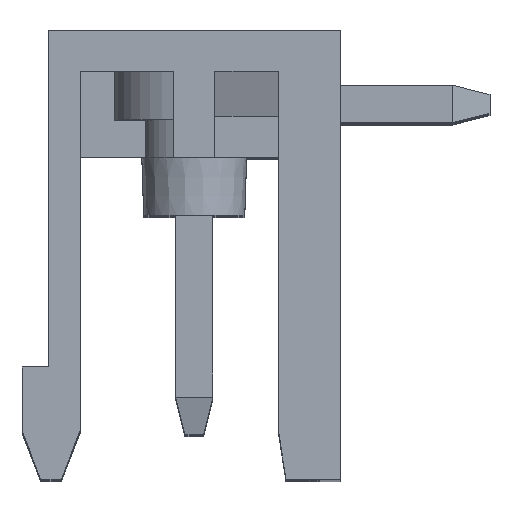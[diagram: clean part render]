
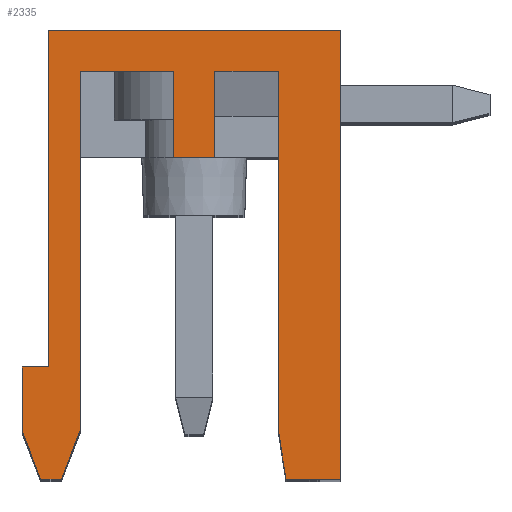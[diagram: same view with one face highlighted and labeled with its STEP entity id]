
A CAD part, top view. The second image highlights one B-rep face of the part: STEP entity #2335.
In plain terms, the highlighted planar face has unit normal (0, 0, 1).
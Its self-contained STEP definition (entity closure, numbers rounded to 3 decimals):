
#90 = CARTESIAN_POINT ( 'NONE',  ( -3.9, 3., 40.64 ) ) ;
#117 = CARTESIAN_POINT ( 'NONE',  ( -4.6, 3., 40.64 ) ) ;
#369 = CARTESIAN_POINT ( 'NONE',  ( 0.55, 8.6, 40.64 ) ) ;
#511 = DIRECTION ( 'NONE',  ( 1., 0., 0. ) ) ;
#717 = DIRECTION ( 'NONE',  ( 0., 0., 1. ) ) ;
#748 = CARTESIAN_POINT ( 'NONE',  ( -0.55, 10.9, 40.64 ) ) ;
#944 = VECTOR ( 'NONE', #13613, 1000. ) ;
#1060 = VECTOR ( 'NONE', #13209, 1000. ) ;
#1061 = DIRECTION ( 'NONE',  ( 0., -1., 0. ) ) ;
#1148 = CARTESIAN_POINT ( 'NONE',  ( 3.9, 12., 40.64 ) ) ;
#1170 = EDGE_CURVE ( 'NONE', #3306, #5847, #16572, .T. ) ;
#1202 = EDGE_CURVE ( 'NONE', #19290, #5343, #10304, .T. ) ;
#1231 = LINE ( 'NONE', #18402, #3653 ) ;
#1450 = VERTEX_POINT ( 'NONE', #13142 ) ;
#1776 = CARTESIAN_POINT ( 'NONE',  ( 2.45, 0., 40.64 ) ) ;
#2075 = ORIENTED_EDGE ( 'NONE', *, *, #4774, .T. ) ;
#2335 = ADVANCED_FACE ( 'NONE', ( #18223 ), #19426, .T. ) ;
#2500 = CARTESIAN_POINT ( 'NONE',  ( 2.25, 10.9, 40.64 ) ) ;
#2660 = CARTESIAN_POINT ( 'NONE',  ( 3.9, 0., 40.64 ) ) ;
#3051 = ORIENTED_EDGE ( 'NONE', *, *, #16836, .T. ) ;
#3090 = EDGE_LOOP ( 'NONE', ( #4504, #6702, #3051, #2075, #15995, #11252, #11122, #10218, #17777, #4481, #12901, #8380, #15593, #7785, #7153, #17017, #16900 ) ) ;
#3146 = VECTOR ( 'NONE', #19771, 1000. ) ;
#3306 = VERTEX_POINT ( 'NONE', #11928 ) ;
#3485 = DIRECTION ( 'NONE',  ( -1., 0., 0. ) ) ;
#3502 = CARTESIAN_POINT ( 'NONE',  ( -3.05, 10.9, 40.64 ) ) ;
#3653 = VECTOR ( 'NONE', #13087, 1000. ) ;
#3658 = LINE ( 'NONE', #369, #7294 ) ;
#3861 = DIRECTION ( 'NONE',  ( 0., 1., 0. ) ) ;
#3906 = EDGE_CURVE ( 'NONE', #11665, #14758, #18688, .T. ) ;
#4069 = VERTEX_POINT ( 'NONE', #8463 ) ;
#4229 = EDGE_CURVE ( 'NONE', #18033, #6378, #4349, .T. ) ;
#4282 = DIRECTION ( 'NONE',  ( -0.359, 0.933, 0. ) ) ;
#4349 = LINE ( 'NONE', #13402, #15713 ) ;
#4481 = ORIENTED_EDGE ( 'NONE', *, *, #4525, .F. ) ;
#4504 = ORIENTED_EDGE ( 'NONE', *, *, #3906, .T. ) ;
#4525 = EDGE_CURVE ( 'NONE', #3306, #11089, #7413, .T. ) ;
#4613 = CARTESIAN_POINT ( 'NONE',  ( -3.05, 10.9, 40.64 ) ) ;
#4774 = EDGE_CURVE ( 'NONE', #18431, #18033, #14481, .T. ) ;
#4843 = CARTESIAN_POINT ( 'NONE',  ( -3.05, 1.3, 40.64 ) ) ;
#4891 = LINE ( 'NONE', #11147, #10864 ) ;
#4904 = VERTEX_POINT ( 'NONE', #11698 ) ;
#5178 = LINE ( 'NONE', #8556, #15361 ) ;
#5275 = CARTESIAN_POINT ( 'NONE',  ( -3.55, 0., 40.64 ) ) ;
#5343 = VERTEX_POINT ( 'NONE', #16608 ) ;
#5393 = CARTESIAN_POINT ( 'NONE',  ( 3.9, 0., 40.64 ) ) ;
#5492 = CARTESIAN_POINT ( 'NONE',  ( -0.55, 8.6, 40.64 ) ) ;
#5658 = EDGE_CURVE ( 'NONE', #14758, #19850, #4891, .T. ) ;
#5847 = VERTEX_POINT ( 'NONE', #5492 ) ;
#5848 = VECTOR ( 'NONE', #17579, 1000. ) ;
#6262 = EDGE_CURVE ( 'NONE', #4069, #19797, #3658, .T. ) ;
#6378 = VERTEX_POINT ( 'NONE', #17427 ) ;
#6442 = LINE ( 'NONE', #9117, #11111 ) ;
#6573 = EDGE_CURVE ( 'NONE', #5343, #15624, #14751, .T. ) ;
#6702 = ORIENTED_EDGE ( 'NONE', *, *, #5658, .T. ) ;
#6940 = EDGE_CURVE ( 'NONE', #19797, #19290, #1231, .T. ) ;
#6948 = CARTESIAN_POINT ( 'NONE',  ( 2.25, 1.3, 40.64 ) ) ;
#7153 = ORIENTED_EDGE ( 'NONE', *, *, #1202, .T. ) ;
#7294 = VECTOR ( 'NONE', #3861, 1000. ) ;
#7413 = LINE ( 'NONE', #18413, #14397 ) ;
#7785 = ORIENTED_EDGE ( 'NONE', *, *, #6940, .T. ) ;
#7849 = VECTOR ( 'NONE', #3485, 1000. ) ;
#8380 = ORIENTED_EDGE ( 'NONE', *, *, #17091, .F. ) ;
#8463 = CARTESIAN_POINT ( 'NONE',  ( 0.55, 8.6, 40.64 ) ) ;
#8502 = CARTESIAN_POINT ( 'NONE',  ( -4.1, 0., 40.64 ) ) ;
#8556 = CARTESIAN_POINT ( 'NONE',  ( 2.45, 0., 40.64 ) ) ;
#8865 = EDGE_CURVE ( 'NONE', #1450, #15717, #11975, .T. ) ;
#9117 = CARTESIAN_POINT ( 'NONE',  ( -3.9, 12., 40.64 ) ) ;
#9319 = DIRECTION ( 'NONE',  ( 0., 1., 0. ) ) ;
#10045 = EDGE_CURVE ( 'NONE', #1450, #6378, #11983, .T. ) ;
#10218 = ORIENTED_EDGE ( 'NONE', *, *, #14898, .F. ) ;
#10304 = LINE ( 'NONE', #2500, #3146 ) ;
#10771 = VECTOR ( 'NONE', #9319, 1000. ) ;
#10864 = VECTOR ( 'NONE', #16582, 1000. ) ;
#10898 = LINE ( 'NONE', #4843, #13023 ) ;
#10920 = VECTOR ( 'NONE', #13525, 1000. ) ;
#11089 = VERTEX_POINT ( 'NONE', #4613 ) ;
#11111 = VECTOR ( 'NONE', #20219, 1000. ) ;
#11122 = ORIENTED_EDGE ( 'NONE', *, *, #8865, .T. ) ;
#11147 = CARTESIAN_POINT ( 'NONE',  ( 3.9, 12., 40.64 ) ) ;
#11252 = ORIENTED_EDGE ( 'NONE', *, *, #10045, .F. ) ;
#11665 = VERTEX_POINT ( 'NONE', #5393 ) ;
#11695 = CARTESIAN_POINT ( 'NONE',  ( -3.9, 12., 40.64 ) ) ;
#11698 = CARTESIAN_POINT ( 'NONE',  ( -3.05, 1.3, 40.64 ) ) ;
#11928 = CARTESIAN_POINT ( 'NONE',  ( -0.55, 10.9, 40.64 ) ) ;
#11967 = LINE ( 'NONE', #18041, #944 ) ;
#11975 = LINE ( 'NONE', #14863, #10920 ) ;
#11983 = LINE ( 'NONE', #8502, #13586 ) ;
#12460 = DIRECTION ( 'NONE',  ( -0.359, -0.933, 0. ) ) ;
#12901 = ORIENTED_EDGE ( 'NONE', *, *, #1170, .T. ) ;
#13023 = VECTOR ( 'NONE', #12460, 1000. ) ;
#13087 = DIRECTION ( 'NONE',  ( 1., 0., 0. ) ) ;
#13142 = CARTESIAN_POINT ( 'NONE',  ( -4.1, 0., 40.64 ) ) ;
#13209 = DIRECTION ( 'NONE',  ( 0.152, -0.988, 0. ) ) ;
#13402 = CARTESIAN_POINT ( 'NONE',  ( -4.6, 3., 40.64 ) ) ;
#13525 = DIRECTION ( 'NONE',  ( 1., 0., 0. ) ) ;
#13580 = DIRECTION ( 'NONE',  ( -1., 0., 0. ) ) ;
#13586 = VECTOR ( 'NONE', #4282, 1000. ) ;
#13613 = DIRECTION ( 'NONE',  ( -1., 0., 0. ) ) ;
#14397 = VECTOR ( 'NONE', #13580, 1000. ) ;
#14481 = LINE ( 'NONE', #19316, #7849 ) ;
#14496 = LINE ( 'NONE', #3502, #5848 ) ;
#14751 = LINE ( 'NONE', #6948, #1060 ) ;
#14758 = VERTEX_POINT ( 'NONE', #1148 ) ;
#14863 = CARTESIAN_POINT ( 'NONE',  ( -4.1, 0., 40.64 ) ) ;
#14898 = EDGE_CURVE ( 'NONE', #4904, #15717, #10898, .T. ) ;
#15361 = VECTOR ( 'NONE', #19449, 1000. ) ;
#15593 = ORIENTED_EDGE ( 'NONE', *, *, #6262, .T. ) ;
#15624 = VERTEX_POINT ( 'NONE', #1776 ) ;
#15713 = VECTOR ( 'NONE', #1061, 1000. ) ;
#15717 = VERTEX_POINT ( 'NONE', #5275 ) ;
#15772 = EDGE_CURVE ( 'NONE', #15624, #11665, #5178, .T. ) ;
#15995 = ORIENTED_EDGE ( 'NONE', *, *, #4229, .T. ) ;
#16110 = EDGE_CURVE ( 'NONE', #11089, #4904, #14496, .T. ) ;
#16115 = CARTESIAN_POINT ( 'NONE',  ( 0.55, 10.9, 40.64 ) ) ;
#16572 = LINE ( 'NONE', #748, #16890 ) ;
#16582 = DIRECTION ( 'NONE',  ( -1., 0., 0. ) ) ;
#16608 = CARTESIAN_POINT ( 'NONE',  ( 2.25, 1.3, 40.64 ) ) ;
#16836 = EDGE_CURVE ( 'NONE', #19850, #18431, #6442, .T. ) ;
#16890 = VECTOR ( 'NONE', #18219, 1000. ) ;
#16900 = ORIENTED_EDGE ( 'NONE', *, *, #15772, .T. ) ;
#17017 = ORIENTED_EDGE ( 'NONE', *, *, #6573, .T. ) ;
#17091 = EDGE_CURVE ( 'NONE', #4069, #5847, #11967, .T. ) ;
#17280 = CARTESIAN_POINT ( 'NONE',  ( 2.25, 10.9, 40.64 ) ) ;
#17427 = CARTESIAN_POINT ( 'NONE',  ( -4.6, 1.3, 40.64 ) ) ;
#17579 = DIRECTION ( 'NONE',  ( 0., -1., 0. ) ) ;
#17777 = ORIENTED_EDGE ( 'NONE', *, *, #16110, .F. ) ;
#18033 = VERTEX_POINT ( 'NONE', #117 ) ;
#18041 = CARTESIAN_POINT ( 'NONE',  ( 0.55, 8.6, 40.64 ) ) ;
#18219 = DIRECTION ( 'NONE',  ( 0., -1., 0. ) ) ;
#18223 = FACE_OUTER_BOUND ( 'NONE', #3090, .T. ) ;
#18402 = CARTESIAN_POINT ( 'NONE',  ( 0.55, 10.9, 40.64 ) ) ;
#18413 = CARTESIAN_POINT ( 'NONE',  ( -0.55, 10.9, 40.64 ) ) ;
#18431 = VERTEX_POINT ( 'NONE', #90 ) ;
#18688 = LINE ( 'NONE', #2660, #10771 ) ;
#19290 = VERTEX_POINT ( 'NONE', #17280 ) ;
#19316 = CARTESIAN_POINT ( 'NONE',  ( -3.9, 3., 40.64 ) ) ;
#19331 = CARTESIAN_POINT ( 'NONE',  ( -10.2, 16.267, 40.64 ) ) ;
#19426 = PLANE ( 'NONE',  #19931 ) ;
#19449 = DIRECTION ( 'NONE',  ( 1., 0., 0. ) ) ;
#19771 = DIRECTION ( 'NONE',  ( 0., -1., 0. ) ) ;
#19797 = VERTEX_POINT ( 'NONE', #16115 ) ;
#19850 = VERTEX_POINT ( 'NONE', #11695 ) ;
#19931 = AXIS2_PLACEMENT_3D ( 'NONE', #19331, #717, #511 ) ;
#20219 = DIRECTION ( 'NONE',  ( 0., -1., 0. ) ) ;
